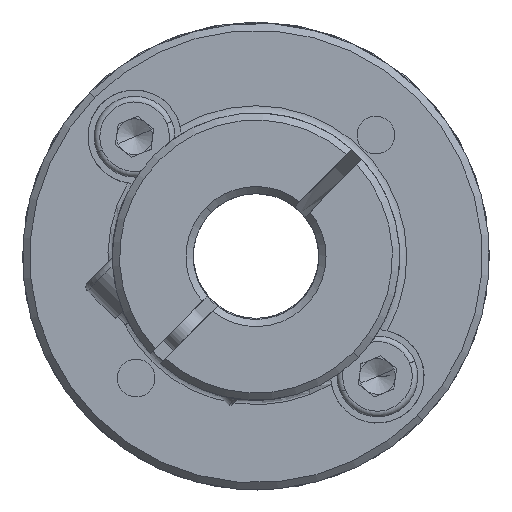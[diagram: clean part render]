
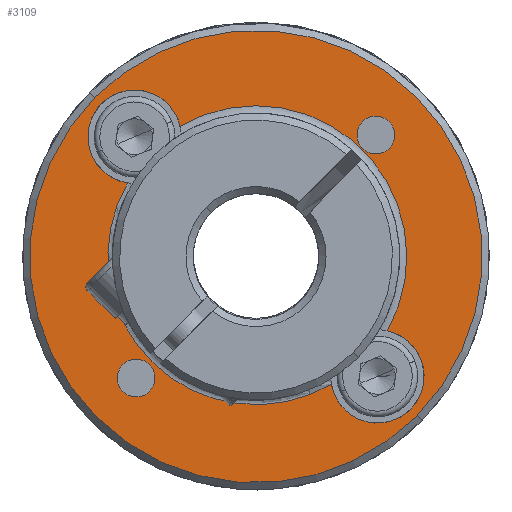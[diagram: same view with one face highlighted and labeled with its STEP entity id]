
A CAD part, front view. The second image highlights one B-rep face of the part: STEP entity #3109.
In plain terms, the highlighted planar face has unit normal (0, -1, 0).
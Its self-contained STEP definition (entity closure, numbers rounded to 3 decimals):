
#94 = EDGE_CURVE ( 'NONE', #11857, #14396, #14305, .T. ) ;
#121 = CIRCLE ( 'NONE', #2778, 2.6 ) ;
#435 = CARTESIAN_POINT ( 'NONE',  ( 0.121, -18.979, 18.838 ) ) ;
#855 = DIRECTION ( 'NONE',  ( 0., 1., 0. ) ) ;
#965 = VERTEX_POINT ( 'NONE', #1027 ) ;
#981 = CIRCLE ( 'NONE', #2940, 1.05 ) ;
#1013 = ORIENTED_EDGE ( 'NONE', *, *, #5502, .T. ) ;
#1027 = CARTESIAN_POINT ( 'NONE',  ( -13.043, -18.979, 34.789 ) ) ;
#1470 = AXIS2_PLACEMENT_3D ( 'NONE', #3434, #12613, #5194 ) ;
#1601 = CARTESIAN_POINT ( 'NONE',  ( 2.686, -18.979, 19.264 ) ) ;
#1626 = EDGE_LOOP ( 'NONE', ( #18606, #6962, #11766, #1013, #10466, #5252 ) ) ;
#1752 = FACE_BOUND ( 'NONE', #1626, .T. ) ;
#1786 = CIRCLE ( 'NONE', #15536, 12.6 ) ;
#2007 = CARTESIAN_POINT ( 'NONE',  ( 4.892, -18.979, 17.087 ) ) ;
#2361 = EDGE_LOOP ( 'NONE', ( #15387, #9236 ) ) ;
#2481 = EDGE_CURVE ( 'NONE', #13476, #9695, #121, .T. ) ;
#2778 = AXIS2_PLACEMENT_3D ( 'NONE', #1601, #9097, #12168 ) ;
#2940 = AXIS2_PLACEMENT_3D ( 'NONE', #18939, #17626, #14522 ) ;
#2950 = CARTESIAN_POINT ( 'NONE',  ( -12.688, -18.979, 34.437 ) ) ;
#3109 = ADVANCED_FACE ( 'NONE', ( #16560, #4553, #8553, #1752 ), #13426, .T. ) ;
#3434 = CARTESIAN_POINT ( 'NONE',  ( -4.076, -18.979, 25.938 ) ) ;
#3492 = CARTESIAN_POINT ( 'NONE',  ( -4.076, -18.979, 25.938 ) ) ;
#3630 = DIRECTION ( 'NONE',  ( -0.712, 0., 0.702 ) ) ;
#3754 = DIRECTION ( 'NONE',  ( 0., 1., 0. ) ) ;
#3859 = AXIS2_PLACEMENT_3D ( 'NONE', #3492, #11058, #18429 ) ;
#4108 = AXIS2_PLACEMENT_3D ( 'NONE', #15256, #4554, #13751 ) ;
#4359 = CARTESIAN_POINT ( 'NONE',  ( -10.749, -18.979, 19.176 ) ) ;
#4553 = FACE_BOUND ( 'NONE', #19433, .T. ) ;
#4554 = DIRECTION ( 'NONE',  ( 0., 1., 0. ) ) ;
#4633 = DIRECTION ( 'NONE',  ( -0.712, 0., 0.702 ) ) ;
#5194 = DIRECTION ( 'NONE',  ( -0.712, 0., 0.702 ) ) ;
#5252 = ORIENTED_EDGE ( 'NONE', *, *, #9881, .T. ) ;
#5261 = VERTEX_POINT ( 'NONE', #15056 ) ;
#5390 = CARTESIAN_POINT ( 'NONE',  ( -10.837, -18.979, 32.611 ) ) ;
#5502 = EDGE_CURVE ( 'NONE', #14396, #17007, #17338, .T. ) ;
#5638 = VERTEX_POINT ( 'NONE', #14087 ) ;
#5958 = CIRCLE ( 'NONE', #18175, 1.05 ) ;
#6073 = AXIS2_PLACEMENT_3D ( 'NONE', #13482, #7513, #15001 ) ;
#6406 = AXIS2_PLACEMENT_3D ( 'NONE', #15959, #9843, #17425 ) ;
#6931 = CIRCLE ( 'NONE', #10592, 2.6 ) ;
#6962 = ORIENTED_EDGE ( 'NONE', *, *, #16348, .T. ) ;
#7111 = CARTESIAN_POINT ( 'NONE',  ( -11.496, -18.979, 19.914 ) ) ;
#7451 = EDGE_CURVE ( 'NONE', #10166, #5261, #5958, .T. ) ;
#7513 = DIRECTION ( 'NONE',  ( 0., -1., 0. ) ) ;
#7524 = EDGE_CURVE ( 'NONE', #16095, #965, #14174, .T. ) ;
#7883 = EDGE_CURVE ( 'NONE', #5261, #10166, #981, .T. ) ;
#7990 = CIRCLE ( 'NONE', #1470, 8.4 ) ;
#8155 = CARTESIAN_POINT ( 'NONE',  ( -4.076, -18.979, 25.938 ) ) ;
#8198 = ORIENTED_EDGE ( 'NONE', *, *, #14920, .T. ) ;
#8381 = DIRECTION ( 'NONE',  ( 0., 1., 0. ) ) ;
#8553 = FACE_BOUND ( 'NONE', #9853, .T. ) ;
#8986 = ORIENTED_EDGE ( 'NONE', *, *, #7451, .T. ) ;
#9034 = VERTEX_POINT ( 'NONE', #19047 ) ;
#9097 = DIRECTION ( 'NONE',  ( 0., 1., 0. ) ) ;
#9236 = ORIENTED_EDGE ( 'NONE', *, *, #18314, .T. ) ;
#9333 = AXIS2_PLACEMENT_3D ( 'NONE', #15331, #15078, #4633 ) ;
#9695 = VERTEX_POINT ( 'NONE', #16410 ) ;
#9843 = DIRECTION ( 'NONE',  ( 0., 1., 0. ) ) ;
#9853 = EDGE_LOOP ( 'NONE', ( #13305, #8986 ) ) ;
#9881 = EDGE_CURVE ( 'NONE', #9034, #13476, #7990, .T. ) ;
#10166 = VERTEX_POINT ( 'NONE', #7111 ) ;
#10466 = ORIENTED_EDGE ( 'NONE', *, *, #13441, .T. ) ;
#10592 = AXIS2_PLACEMENT_3D ( 'NONE', #5390, #855, #11387 ) ;
#10620 = CARTESIAN_POINT ( 'NONE',  ( -11.23, -18.979, 30.041 ) ) ;
#10858 = VERTEX_POINT ( 'NONE', #16935 ) ;
#11051 = DIRECTION ( 'NONE',  ( 0., -1., 0. ) ) ;
#11058 = DIRECTION ( 'NONE',  ( 0., 1., 0. ) ) ;
#11387 = DIRECTION ( 'NONE',  ( -0.712, 0., 0.702 ) ) ;
#11766 = ORIENTED_EDGE ( 'NONE', *, *, #94, .T. ) ;
#11857 = VERTEX_POINT ( 'NONE', #435 ) ;
#12168 = DIRECTION ( 'NONE',  ( -0.712, 0., 0.702 ) ) ;
#12605 = DIRECTION ( 'NONE',  ( -0.712, 0., 0.702 ) ) ;
#12613 = DIRECTION ( 'NONE',  ( 0., 1., 0. ) ) ;
#12621 = CARTESIAN_POINT ( 'NONE',  ( 2.686, -18.979, 19.264 ) ) ;
#13305 = ORIENTED_EDGE ( 'NONE', *, *, #7883, .T. ) ;
#13426 = PLANE ( 'NONE',  #9333 ) ;
#13441 = EDGE_CURVE ( 'NONE', #17007, #9034, #6931, .T. ) ;
#13476 = VERTEX_POINT ( 'NONE', #16042 ) ;
#13482 = CARTESIAN_POINT ( 'NONE',  ( -4.076, -18.979, 25.938 ) ) ;
#13751 = DIRECTION ( 'NONE',  ( -0.712, 0., 0.702 ) ) ;
#13884 = AXIS2_PLACEMENT_3D ( 'NONE', #16054, #8381, #15986 ) ;
#14087 = CARTESIAN_POINT ( 'NONE',  ( 3.345, -18.979, 31.962 ) ) ;
#14174 = CIRCLE ( 'NONE', #6073, 12.6 ) ;
#14305 = CIRCLE ( 'NONE', #3859, 8.247 ) ;
#14396 = VERTEX_POINT ( 'NONE', #10620 ) ;
#14522 = DIRECTION ( 'NONE',  ( -0.712, 0., 0.702 ) ) ;
#14874 = DIRECTION ( 'NONE',  ( -0.712, 0., 0.702 ) ) ;
#14920 = EDGE_CURVE ( 'NONE', #10858, #5638, #17232, .T. ) ;
#15001 = DIRECTION ( 'NONE',  ( -0.712, 0., 0.702 ) ) ;
#15056 = CARTESIAN_POINT ( 'NONE',  ( -10.002, -18.979, 18.439 ) ) ;
#15078 = DIRECTION ( 'NONE',  ( 0., -1., 0. ) ) ;
#15256 = CARTESIAN_POINT ( 'NONE',  ( 2.598, -18.979, 32.699 ) ) ;
#15292 = CIRCLE ( 'NONE', #13884, 1.05 ) ;
#15331 = CARTESIAN_POINT ( 'NONE',  ( -4.076, -18.979, 25.938 ) ) ;
#15387 = ORIENTED_EDGE ( 'NONE', *, *, #7524, .T. ) ;
#15510 = CIRCLE ( 'NONE', #16548, 2.6 ) ;
#15536 = AXIS2_PLACEMENT_3D ( 'NONE', #8155, #11051, #12605 ) ;
#15959 = CARTESIAN_POINT ( 'NONE',  ( -10.837, -18.979, 32.611 ) ) ;
#15986 = DIRECTION ( 'NONE',  ( -0.712, 0., 0.702 ) ) ;
#16042 = CARTESIAN_POINT ( 'NONE',  ( 3.238, -18.979, 21.805 ) ) ;
#16054 = CARTESIAN_POINT ( 'NONE',  ( 2.598, -18.979, 32.699 ) ) ;
#16095 = VERTEX_POINT ( 'NONE', #2007 ) ;
#16348 = EDGE_CURVE ( 'NONE', #9695, #11857, #15510, .T. ) ;
#16405 = EDGE_CURVE ( 'NONE', #5638, #10858, #15292, .T. ) ;
#16410 = CARTESIAN_POINT ( 'NONE',  ( 4.536, -18.979, 17.438 ) ) ;
#16548 = AXIS2_PLACEMENT_3D ( 'NONE', #12621, #3754, #3630 ) ;
#16560 = FACE_OUTER_BOUND ( 'NONE', #2361, .T. ) ;
#16935 = CARTESIAN_POINT ( 'NONE',  ( 1.85, -18.979, 33.437 ) ) ;
#17007 = VERTEX_POINT ( 'NONE', #2950 ) ;
#17232 = CIRCLE ( 'NONE', #4108, 1.05 ) ;
#17338 = CIRCLE ( 'NONE', #6406, 2.6 ) ;
#17425 = DIRECTION ( 'NONE',  ( -0.712, 0., 0.702 ) ) ;
#17626 = DIRECTION ( 'NONE',  ( 0., 1., 0. ) ) ;
#17651 = DIRECTION ( 'NONE',  ( 0., 1., 0. ) ) ;
#18175 = AXIS2_PLACEMENT_3D ( 'NONE', #4359, #17651, #14874 ) ;
#18314 = EDGE_CURVE ( 'NONE', #965, #16095, #1786, .T. ) ;
#18338 = ORIENTED_EDGE ( 'NONE', *, *, #16405, .T. ) ;
#18429 = DIRECTION ( 'NONE',  ( -0.712, 0., 0.702 ) ) ;
#18606 = ORIENTED_EDGE ( 'NONE', *, *, #2481, .T. ) ;
#18939 = CARTESIAN_POINT ( 'NONE',  ( -10.749, -18.979, 19.176 ) ) ;
#19047 = CARTESIAN_POINT ( 'NONE',  ( -8.304, -18.979, 33.196 ) ) ;
#19433 = EDGE_LOOP ( 'NONE', ( #18338, #8198 ) ) ;
